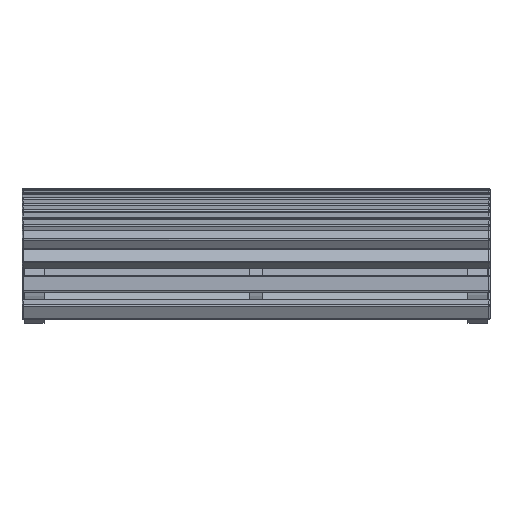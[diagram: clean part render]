
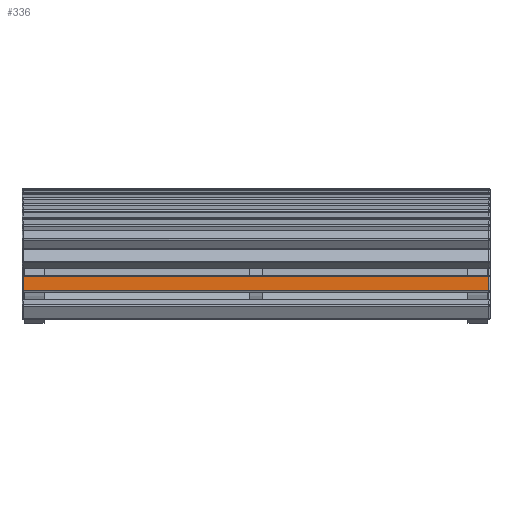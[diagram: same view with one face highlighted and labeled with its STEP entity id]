
A CAD part, front view. The second image highlights one B-rep face of the part: STEP entity #336.
In plain terms, the highlighted planar face has unit normal (0, -0.999, 0.035).
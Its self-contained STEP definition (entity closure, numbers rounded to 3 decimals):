
#336=ADVANCED_FACE('',(#937),#8163,.T.);
#937=FACE_OUTER_BOUND('',#1538,.T.);
#1538=EDGE_LOOP('',(#2407,#2408,#2409,#2410));
#2407=ORIENTED_EDGE('',*,*,#4694,.F.);
#2408=ORIENTED_EDGE('',*,*,#4712,.F.);
#2409=ORIENTED_EDGE('',*,*,#4703,.F.);
#2410=ORIENTED_EDGE('',*,*,#4713,.F.);
#4694=EDGE_CURVE('',#7100,#7099,#6569,.T.);
#4703=EDGE_CURVE('',#7110,#7109,#6574,.T.);
#4712=EDGE_CURVE('',#7109,#7100,#6579,.T.);
#4713=EDGE_CURVE('',#7099,#7110,#6580,.T.);
#6569=B_SPLINE_CURVE_WITH_KNOTS('',1,(#9618,#9619),.UNSPECIFIED.,.F.,.F.,
(2,2),(-14.2,43.2),.UNSPECIFIED.);
#6574=B_SPLINE_CURVE_WITH_KNOTS('',1,(#9640,#9641),.UNSPECIFIED.,.F.,.F.,
(2,2),(-14.2,43.2),.UNSPECIFIED.);
#6579=B_SPLINE_CURVE_WITH_KNOTS('',1,(#9662,#9663),.UNSPECIFIED.,.F.,.F.,
(2,2),(-0.75,2.85),.UNSPECIFIED.);
#6580=B_SPLINE_CURVE_WITH_KNOTS('',1,(#9664,#9665),.UNSPECIFIED.,.F.,.F.,
(2,2),(-0.75,2.85),.UNSPECIFIED.);
#7099=VERTEX_POINT('',#9594);
#7100=VERTEX_POINT('',#9595);
#7109=VERTEX_POINT('',#9604);
#7110=VERTEX_POINT('',#9605);
#8163=PLANE('',#8311);
#8311=AXIS2_PLACEMENT_3D('',#9469,#8442,$);
#8442=DIRECTION('',(0.,-0.999,0.035));
#9469=CARTESIAN_POINT('',(1187.021,0.001,82.746));
#9594=CARTESIAN_POINT('',(1187.,1.259,118.734));
#9595=CARTESIAN_POINT('',(3.,1.259,118.734));
#9604=CARTESIAN_POINT('',(3.,0.002,82.756));
#9605=CARTESIAN_POINT('',(1187.,0.002,82.756));
#9618=CARTESIAN_POINT('',(3.,1.259,118.734));
#9619=CARTESIAN_POINT('',(1187.,1.259,118.734));
#9640=CARTESIAN_POINT('',(1187.,0.002,82.756));
#9641=CARTESIAN_POINT('',(3.,0.002,82.756));
#9662=CARTESIAN_POINT('',(3.,0.002,82.756));
#9663=CARTESIAN_POINT('',(3.,1.259,118.734));
#9664=CARTESIAN_POINT('',(1187.,1.259,118.734));
#9665=CARTESIAN_POINT('',(1187.,0.002,82.756));
